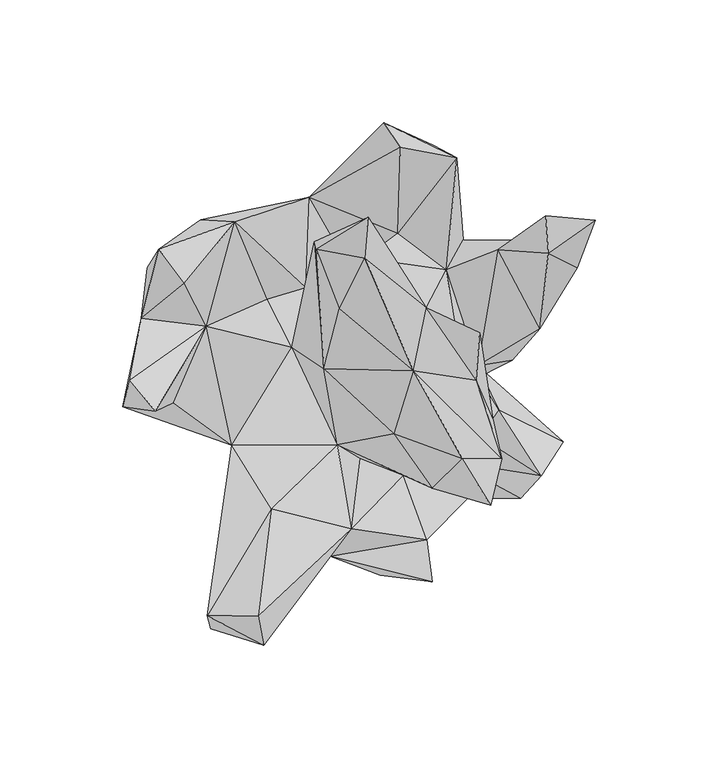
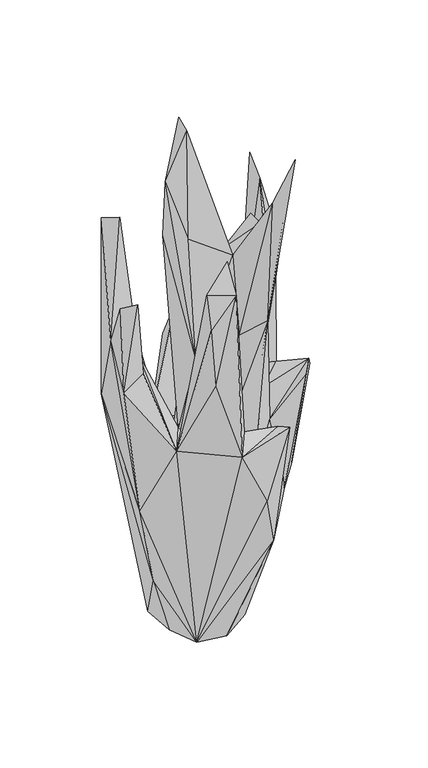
"""IFC4 building model written with IfcOpenShell, lengths in millimetres: geographic element geometry, Enscape AssetDefinition - Potted Plant 247 Snake Plant : Enscape AssetDefinition - Potted Plant 247 Snake Plant 2."""

from ifc_helpers import new_model, si_unit, origin, place, context, project, spatial, triangles, source, transform, mapped, element, save


def geographic_element_90b7c5d2(model_context):
    return source(origin(), model_context, "Body", "Tessellation", [
        triangles([(-85.2330151, 35.2859707, 240.8337918), (-70.1252981, 28.8503034, 427.7191323), (-92.3347165, -10.6801064, 362.1232816), (-87.6746085, 14.5398306, 310.3402868), (-49.6148177, 54.0329755, 320.2058547), (-80.6427067, 42.7277744, 422.3782883), (-63.4718207, 54.8842726, 256.7135638), (-43.3927592, 26.3572802, 0.0), (-51.9477558, 1.7435408, 50.1742993), (-29.9194151, -35.6717348, 0.0), (-71.8583455, -9.3092071, 138.1039885), (-95.3163749, -21.5066451, 279.5921637), (-82.1033551, -23.2339175, 370.3565363), (-74.6011922, -19.7163928, 291.9061104), (-50.8996411, -37.1029928, 211.7756817), (-61.1787603, 11.350336, 288.631601), (-26.3383837, 2.8441447, 203.7817293), (-36.3141488, 22.382089, 201.2236187), (-2.7092593, 35.0424445, 126.290202), (-20.7503413, 27.0663462, 159.3891446), (16.8769733, 49.1996586, 178.253709), (-19.3327294, 63.9305363, 172.2825255), (36.6500499, 34.3900588, 163.4656218), (3.0839997, 39.1094814, 274.1883511), (17.7503167, 84.3470681, 271.4297622), (11.0978839, 94.3207326, 235.7522342), (31.3386008, 85.0844777, 173.3978099), (40.8729685, 80.1456712, 216.2122024), (43.4184753, 46.7307822, 103.340222), (-16.2387583, 41.3290589, 0.0), (74.8205784, 24.4232208, 171.1666961), (32.4922141, 6.4771341, 0.0), (24.5428833, 28.5359194, 0.0), (-41.0755587, -7.4827401, 0.0), (-2.1775893, -40.3481231, 0.0), (27.5423823, -20.6752869, 0.0), (28.6162198, -75.6524635, 233.6922219), (25.8229855, -74.0668998, 112.8604258), (9.775272, -90.0217127, 169.6645712), (30.9785551, -92.8495924, 242.1789858), (30.9286967, -54.7131756, 332.5675638), (-2.1917602, -71.2106879, 235.7748164), (1.3661761, -42.463778, 133.859026), (19.0886786, -49.4137989, 160.4246737), (-40.0898949, -106.7396602, 452.0483886), (-10.7892738, -82.4156453, 218.6275346), (-37.838304, -118.6489624, 422.8050064), (-60.8822213, -106.7527772, 423.5156462), (-34.7480062, -62.9501184, 311.9605368), (-59.4053084, -112.029063, 388.4658597), (-46.9590886, -98.5216117, 315.9666876), (-7.7740304, -36.8741596, 196.0801281), (-17.128374, 45.837491, 379.7565439), (4.7740063, 55.7140548, 491.6402307), (-16.3159111, 42.6621716, 438.5388571), (3.3196557, 39.0276051, 488.024572), (-7.1163971, 18.5381126, 388.3918453), (23.1562401, -6.856598, 376.3612933), (-13.304341, -5.896653, 278.2343977), (15.2683177, -32.3814696, 309.0345162), (59.2882643, -42.5850142, 458.6263301), (43.0358633, -42.654296, 447.0865185), (48.8118007, -10.6816813, 404.2374988), (54.7294492, -61.6201623, 500.0000038), (55.449536, -26.0754342, 353.2984932), (50.2414782, 8.7932825, 402.1260361), (39.1136781, -29.3935184, 269.5775678), (39.3493378, -43.8005605, 218.6506255), (41.8581055, -28.1039691, 242.6755035), (66.9993125, -58.7450471, 265.7362144), (62.9401489, -41.4597422, 162.5623703), (58.048578, -22.5978031, 260.7081782), (84.3140033, -35.653892, 257.1061634), (75.3443791, -49.5156186, 274.0844148), (45.2633119, -58.6280075, 151.6250746), (74.7623198, 10.2948692, 231.8269106), (49.3928018, -4.7388414, 155.2407605), (63.4770666, -2.3670589, 106.4173961), (75.0446926, 46.5339647, 201.9243027), (90.0222395, 35.2235177, 309.868477), (97.315508, 54.6596406, 356.0523949), (77.0978921, 56.4194532, 428.9861335), (78.1386626, 41.1033732, 410.3388705), (57.6622916, 42.5624502, 255.9095068), (41.2240871, 4.9550783, 252.9341615), (28.4944544, 18.8955331, 366.6458616)], [[85, 86, 66], [86, 85, 23], [23, 84, 79], [84, 82, 81], [81, 79, 84], [82, 83, 81], [82, 84, 83], [80, 79, 81], [80, 81, 83], [31, 79, 80], [83, 76, 80], [84, 76, 83], [76, 31, 80], [31, 76, 78], [78, 32, 31], [78, 36, 32], [78, 77, 36], [77, 78, 76], [84, 23, 77], [77, 76, 84], [77, 23, 85], [72, 77, 85], [72, 73, 77], [73, 71, 77], [77, 71, 36], [75, 36, 71], [74, 75, 71], [72, 74, 73], [73, 74, 71], [70, 75, 74], [69, 74, 72], [68, 70, 74], [75, 70, 68], [68, 74, 69], [67, 69, 72], [68, 69, 67], [41, 68, 67], [66, 65, 85], [85, 65, 72], [65, 41, 67], [72, 65, 67], [86, 63, 66], [63, 65, 66], [61, 64, 41], [63, 61, 65], [61, 41, 65], [41, 64, 62], [62, 64, 61], [52, 41, 60], [41, 62, 60], [59, 52, 60], [58, 63, 86], [63, 58, 61], [59, 60, 58], [58, 62, 61], [60, 62, 58], [58, 57, 59], [56, 58, 86], [57, 58, 56], [59, 57, 55], [55, 57, 56], [55, 56, 54], [56, 86, 54], [53, 55, 54], [53, 59, 55], [53, 54, 24], [54, 86, 24], [86, 23, 24], [17, 59, 53], [24, 17, 53], [17, 52, 59], [52, 17, 15], [46, 51, 15], [15, 51, 50], [50, 48, 15], [49, 52, 15], [15, 48, 49], [48, 45, 49], [48, 47, 45], [48, 50, 47], [46, 47, 51], [47, 50, 51], [42, 47, 46], [49, 42, 52], [45, 42, 49], [47, 42, 45], [42, 43, 52], [44, 75, 68], [44, 68, 41], [43, 44, 52], [42, 44, 43], [41, 52, 44], [37, 75, 44], [37, 42, 46], [44, 42, 37], [46, 40, 37], [46, 39, 40], [75, 38, 36], [37, 38, 75], [39, 38, 40], [40, 38, 37], [38, 35, 36], [36, 35, 10], [10, 38, 39], [10, 39, 46], [38, 10, 35], [10, 46, 15], [36, 10, 8], [10, 34, 8], [33, 32, 36], [8, 33, 36], [79, 31, 29], [29, 23, 79], [32, 33, 29], [31, 32, 29], [23, 29, 28], [28, 29, 27], [8, 30, 33], [29, 30, 27], [30, 29, 33], [28, 27, 26], [27, 30, 26], [25, 28, 26], [21, 28, 25], [21, 23, 28], [23, 21, 24], [22, 21, 25], [30, 22, 26], [22, 25, 26], [19, 24, 21], [22, 19, 21], [20, 19, 22], [24, 20, 17], [19, 20, 24], [17, 20, 18], [16, 17, 18], [15, 17, 16], [14, 15, 16], [16, 13, 14], [3, 13, 16], [12, 15, 14], [13, 12, 14], [3, 12, 13], [15, 11, 10], [15, 12, 11], [34, 9, 8], [9, 10, 11], [34, 10, 9], [1, 9, 11], [9, 1, 8], [7, 30, 8], [8, 1, 7], [30, 7, 22], [5, 18, 20], [5, 20, 22], [22, 7, 5], [18, 5, 16], [2, 16, 5], [7, 1, 6], [6, 2, 5], [5, 7, 6], [16, 4, 3], [3, 4, 12], [12, 4, 11], [4, 16, 2], [6, 4, 2], [4, 6, 1], [4, 1, 11]]),
    ])


if __name__ == "__main__":
    model = new_model("IFC4")
    model_context = context("Model", 3, world=origin())
    ifc_project = project(units=[si_unit("LENGTHUNIT", "METRE", prefix="MILLI")], contexts=[model_context])
    site = spatial("IfcSite", under=ifc_project)
    building = spatial("IfcBuilding", under=site)
    placement = place(None, origin())
    geographic_element_shape = geographic_element_90b7c5d2(model_context)
    element("IfcGeographicElement", 1, ObjectType="Enscape AssetDefinition - Potted Plant 247 Snake Plant : Enscape AssetDefinition - Potted Plant 247 Snake Plant 2", at=placement, inside=building, context=model_context, shape_type="MappedRepresentation", body=[
        mapped(geographic_element_shape, transform((0.0, 0.0, 0.0), x_axis=(1.0, 0.0, 0.0), y_axis=(0.0, 1.0, 0.0), z_axis=(0.0, 0.0, 1.0))),
    ])
    save(model, "model.ifc")
